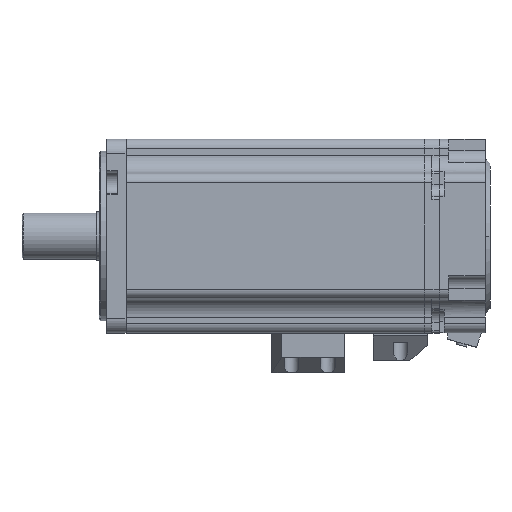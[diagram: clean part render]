
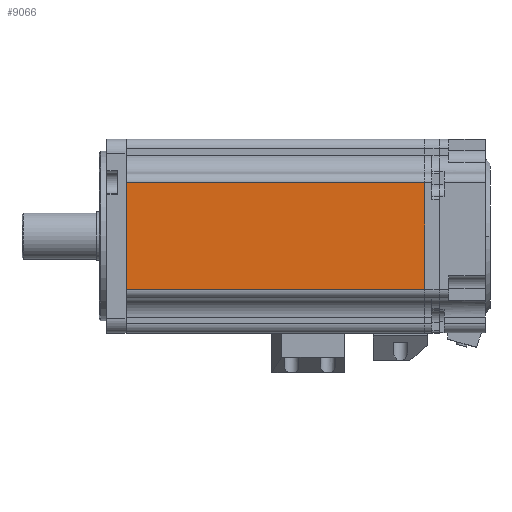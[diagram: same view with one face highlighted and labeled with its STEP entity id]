
A CAD part, front view. The second image highlights one B-rep face of the part: STEP entity #9066.
In plain terms, the highlighted planar face has unit normal (0, -1, 0).
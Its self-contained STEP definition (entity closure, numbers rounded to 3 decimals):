
#76 = ORIENTED_EDGE ( 'NONE', *, *, #11310, .F. ) ;
#275 = CARTESIAN_POINT ( 'NONE',  ( 94.456, -44.144, 141.7 ) ) ;
#729 = CARTESIAN_POINT ( 'NONE',  ( 94.456, -44.144, 97.7 ) ) ;
#1694 = EDGE_CURVE ( 'NONE', #21011, #10188, #28410, .T. ) ;
#2466 = VECTOR ( 'NONE', #4836, 1000. ) ;
#4836 = DIRECTION ( 'NONE',  ( 1., 0., 0. ) ) ;
#5435 = FACE_OUTER_BOUND ( 'NONE', #17914, .T. ) ;
#5500 = LINE ( 'NONE', #5813, #27251 ) ;
#5813 = CARTESIAN_POINT ( 'NONE',  ( 94.456, -44.144, 97.7 ) ) ;
#8498 = ORIENTED_EDGE ( 'NONE', *, *, #23746, .F. ) ;
#8917 = CARTESIAN_POINT ( 'NONE',  ( 94.456, -44.144, 97.7 ) ) ;
#9066 = ADVANCED_FACE ( 'NONE', ( #5435 ), #20402, .F. ) ;
#9435 = CARTESIAN_POINT ( 'NONE',  ( 94.456, -44.144, 141.7 ) ) ;
#10188 = VERTEX_POINT ( 'NONE', #19203 ) ;
#10650 = VECTOR ( 'NONE', #20743, 1000. ) ;
#11246 = AXIS2_PLACEMENT_3D ( 'NONE', #8917, #20600, #25142 ) ;
#11310 = EDGE_CURVE ( 'NONE', #21011, #13673, #24188, .T. ) ;
#11642 = CARTESIAN_POINT ( 'NONE',  ( 94.456, -44.144, 153.2 ) ) ;
#13571 = VECTOR ( 'NONE', #23304, 1000. ) ;
#13673 = VERTEX_POINT ( 'NONE', #9435 ) ;
#15707 = LINE ( 'NONE', #11642, #10650 ) ;
#16777 = ORIENTED_EDGE ( 'NONE', *, *, #19424, .F. ) ;
#17914 = EDGE_LOOP ( 'NONE', ( #16777, #8498, #76, #27101 ) ) ;
#19203 = CARTESIAN_POINT ( 'NONE',  ( -29.044, -44.144, 97.7 ) ) ;
#19424 = EDGE_CURVE ( 'NONE', #20965, #10188, #5500, .T. ) ;
#20402 = PLANE ( 'NONE',  #11246 ) ;
#20600 = DIRECTION ( 'NONE',  ( 0., 1., 0. ) ) ;
#20743 = DIRECTION ( 'NONE',  ( 0., 0., -1. ) ) ;
#20965 = VERTEX_POINT ( 'NONE', #729 ) ;
#21011 = VERTEX_POINT ( 'NONE', #28373 ) ;
#22057 = DIRECTION ( 'NONE',  ( -1., 0., 0. ) ) ;
#23304 = DIRECTION ( 'NONE',  ( 0., 0., -1. ) ) ;
#23746 = EDGE_CURVE ( 'NONE', #13673, #20965, #15707, .T. ) ;
#24188 = LINE ( 'NONE', #275, #2466 ) ;
#25142 = DIRECTION ( 'NONE',  ( 0., 0., 1. ) ) ;
#27101 = ORIENTED_EDGE ( 'NONE', *, *, #1694, .T. ) ;
#27251 = VECTOR ( 'NONE', #22057, 1000. ) ;
#28154 = CARTESIAN_POINT ( 'NONE',  ( -29.044, -44.144, 153.2 ) ) ;
#28373 = CARTESIAN_POINT ( 'NONE',  ( -29.044, -44.144, 141.7 ) ) ;
#28410 = LINE ( 'NONE', #28154, #13571 ) ;
